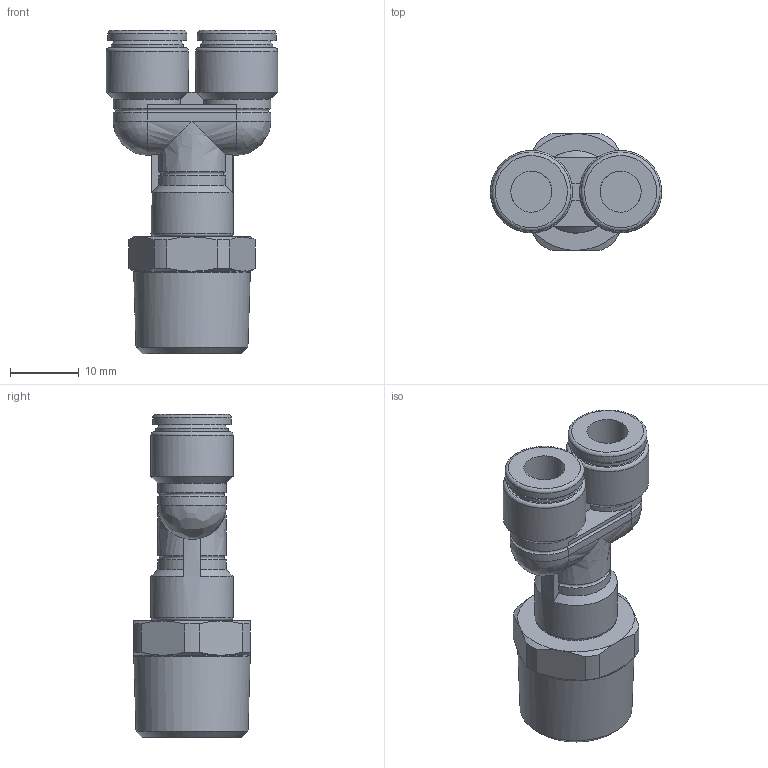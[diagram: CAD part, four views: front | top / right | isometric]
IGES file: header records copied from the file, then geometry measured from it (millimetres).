
Global section: file name: [07] FS6-03MY FS6-03MYW; native system: Autodesk Inventor 2014; preprocessor: unknown; author: kazuhiro.t; date: 20130806.165707; units: millimetre
Bounding box: 25 x 17 x 47.1 mm (x, y, z)
Volume: 7901.1 mm3; surface area: 3821.8 mm2
Topology: 1 solids, 1 shells, 88 faces, 209 edges, 126 vertices
Faces by surface type: bspline 88
